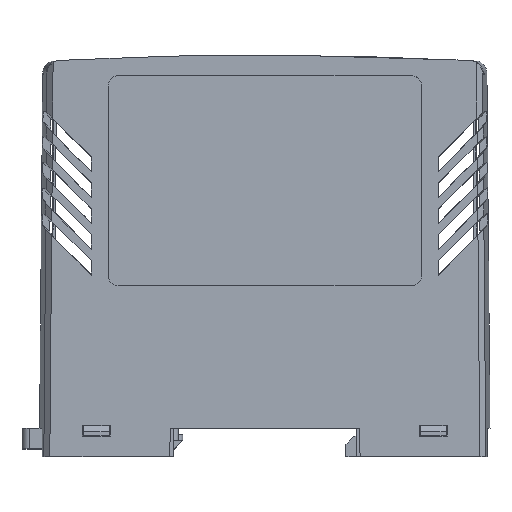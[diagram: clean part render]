
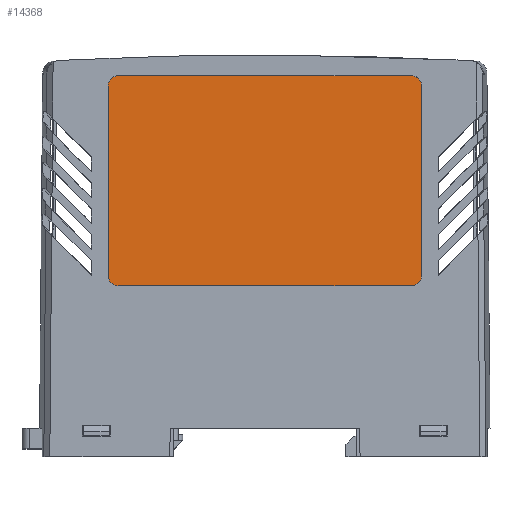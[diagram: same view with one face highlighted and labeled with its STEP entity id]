
A CAD part, top view. The second image highlights one B-rep face of the part: STEP entity #14368.
In plain terms, the highlighted planar face has unit normal (0, 0.009, 1).
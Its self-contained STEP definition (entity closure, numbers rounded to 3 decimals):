
#73 = VECTOR ( 'NONE', #10218, 1000. ) ;
#108 = VECTOR ( 'NONE', #19957, 1000. ) ;
#308 = VECTOR ( 'NONE', #16196, 1000. ) ;
#822 = CARTESIAN_POINT ( 'NONE',  ( 30.25, 72.672, 16.366 ) ) ;
#995 = EDGE_LOOP ( 'NONE', ( #2947, #9107, #2075, #9069, #15527, #13539, #15477, #6209 ) ) ;
#1890 = VERTEX_POINT ( 'NONE', #18297 ) ;
#2075 = ORIENTED_EDGE ( 'NONE', *, *, #9198, .F. ) ;
#2466 = VECTOR ( 'NONE', #21697, 1000. ) ;
#2697 =( BOUNDED_CURVE ( )  B_SPLINE_CURVE ( 3, ( #23502, #15759, #13910, #12091 ),
 .UNSPECIFIED., .F., .F. ) 
 B_SPLINE_CURVE_WITH_KNOTS ( ( 4, 4 ),
 ( 4.712, 6.283 ),
 .UNSPECIFIED. ) 
 CURVE ( )  GEOMETRIC_REPRESENTATION_ITEM ( )  RATIONAL_B_SPLINE_CURVE ( ( 1., 0.805, 0.805, 1. ) ) 
 REPRESENTATION_ITEM ( '' )  );
#2947 = ORIENTED_EDGE ( 'NONE', *, *, #13870, .T. ) ;
#3215 = EDGE_CURVE ( 'NONE', #20598, #23991, #2697, .T. ) ;
#3667 = CARTESIAN_POINT ( 'NONE',  ( 28.25, 73.5, 16.359 ) ) ;
#4546 = CARTESIAN_POINT ( 'NONE',  ( -28.25, 33., 16.712 ) ) ;
#4681 = CARTESIAN_POINT ( 'NONE',  ( -30.25, 33.828, 16.705 ) ) ;
#4962 = CARTESIAN_POINT ( 'NONE',  ( -30.25, 72.672, 16.366 ) ) ;
#5158 = LINE ( 'NONE', #8542, #108 ) ;
#6037 = VERTEX_POINT ( 'NONE', #20530 ) ;
#6156 = AXIS2_PLACEMENT_3D ( 'NONE', #6261, #10088, #23408 ) ;
#6209 = ORIENTED_EDGE ( 'NONE', *, *, #21453, .F. ) ;
#6255 = VERTEX_POINT ( 'NONE', #21267 ) ;
#6261 = CARTESIAN_POINT ( 'NONE',  ( -31.46, 74.31, 16.351 ) ) ;
#6390 =( BOUNDED_CURVE ( )  B_SPLINE_CURVE ( 3, ( #18265, #4962, #8787, #22124 ),
 .UNSPECIFIED., .F., .F. ) 
 B_SPLINE_CURVE_WITH_KNOTS ( ( 4, 4 ),
 ( 1.571, 3.142 ),
 .UNSPECIFIED. ) 
 CURVE ( )  GEOMETRIC_REPRESENTATION_ITEM ( )  RATIONAL_B_SPLINE_CURVE ( ( 1., 0.805, 0.805, 1. ) ) 
 REPRESENTATION_ITEM ( '' )  );
#6437 = CARTESIAN_POINT ( 'NONE',  ( -30.25, 35., 16.695 ) ) ;
#6615 = CARTESIAN_POINT ( 'NONE',  ( 0., 73.5, 16.359 ) ) ;
#7512 = CARTESIAN_POINT ( 'NONE',  ( 28.25, 33., 16.712 ) ) ;
#7531 = LINE ( 'NONE', #6437, #2466 ) ;
#7800 = EDGE_CURVE ( 'NONE', #23991, #23889, #5158, .T. ) ;
#8206 =( BOUNDED_CURVE ( )  B_SPLINE_CURVE ( 3, ( #23574, #14156, #4681, #17974 ),
 .UNSPECIFIED., .F., .F. ) 
 B_SPLINE_CURVE_WITH_KNOTS ( ( 4, 4 ),
 ( 0., 1.571 ),
 .UNSPECIFIED. ) 
 CURVE ( )  GEOMETRIC_REPRESENTATION_ITEM ( )  RATIONAL_B_SPLINE_CURVE ( ( 1., 0.805, 0.805, 1. ) ) 
 REPRESENTATION_ITEM ( '' )  );
#8354 = CARTESIAN_POINT ( 'NONE',  ( 29.422, 73.5, 16.359 ) ) ;
#8542 = CARTESIAN_POINT ( 'NONE',  ( 0., 33., 16.712 ) ) ;
#8787 = CARTESIAN_POINT ( 'NONE',  ( -29.422, 73.5, 16.359 ) ) ;
#9069 = ORIENTED_EDGE ( 'NONE', *, *, #22145, .F. ) ;
#9107 = ORIENTED_EDGE ( 'NONE', *, *, #23514, .F. ) ;
#9198 = EDGE_CURVE ( 'NONE', #1890, #13095, #7531, .T. ) ;
#9780 = EDGE_CURVE ( 'NONE', #20598, #6255, #10184, .T. ) ;
#10088 = DIRECTION ( 'NONE',  ( 0., 0.009, 1. ) ) ;
#10184 = LINE ( 'NONE', #13924, #73 ) ;
#10218 = DIRECTION ( 'NONE',  ( 0., 1., -0.009 ) ) ;
#10300 = CARTESIAN_POINT ( 'NONE',  ( 28.25, 73.5, 16.359 ) ) ;
#12091 = CARTESIAN_POINT ( 'NONE',  ( 28.25, 33., 16.712 ) ) ;
#13095 = VERTEX_POINT ( 'NONE', #19114 ) ;
#13539 = ORIENTED_EDGE ( 'NONE', *, *, #3215, .F. ) ;
#13870 = EDGE_CURVE ( 'NONE', #23174, #6037, #15478, .T. ) ;
#13910 = CARTESIAN_POINT ( 'NONE',  ( 29.422, 33., 16.712 ) ) ;
#13924 = CARTESIAN_POINT ( 'NONE',  ( 30.25, 74.31, 16.351 ) ) ;
#14103 = CARTESIAN_POINT ( 'NONE',  ( 30.25, 71.5, 16.376 ) ) ;
#14156 = CARTESIAN_POINT ( 'NONE',  ( -29.422, 33., 16.712 ) ) ;
#14368 = ADVANCED_FACE ( 'NONE', ( #16392 ), #21508, .T. ) ;
#15312 = CARTESIAN_POINT ( 'NONE',  ( 30.25, 35., 16.695 ) ) ;
#15477 = ORIENTED_EDGE ( 'NONE', *, *, #9780, .T. ) ;
#15478 = LINE ( 'NONE', #6615, #308 ) ;
#15527 = ORIENTED_EDGE ( 'NONE', *, *, #7800, .F. ) ;
#15759 = CARTESIAN_POINT ( 'NONE',  ( 30.25, 33.828, 16.705 ) ) ;
#16196 = DIRECTION ( 'NONE',  ( -1., 0., 0. ) ) ;
#16392 = FACE_OUTER_BOUND ( 'NONE', #995, .T. ) ;
#17974 = CARTESIAN_POINT ( 'NONE',  ( -30.25, 35., 16.695 ) ) ;
#18265 = CARTESIAN_POINT ( 'NONE',  ( -30.25, 71.5, 16.376 ) ) ;
#18297 = CARTESIAN_POINT ( 'NONE',  ( -30.25, 35., 16.695 ) ) ;
#19114 = CARTESIAN_POINT ( 'NONE',  ( -30.25, 71.5, 16.376 ) ) ;
#19957 = DIRECTION ( 'NONE',  ( -1., 0., 0. ) ) ;
#20530 = CARTESIAN_POINT ( 'NONE',  ( -28.25, 73.5, 16.359 ) ) ;
#20598 = VERTEX_POINT ( 'NONE', #15312 ) ;
#21267 = CARTESIAN_POINT ( 'NONE',  ( 30.25, 71.5, 16.376 ) ) ;
#21453 = EDGE_CURVE ( 'NONE', #23174, #6255, #21519, .T. ) ;
#21508 = PLANE ( 'NONE',  #6156 ) ;
#21519 =( BOUNDED_CURVE ( )  B_SPLINE_CURVE ( 3, ( #10300, #8354, #822, #14103 ),
 .UNSPECIFIED., .F., .F. ) 
 B_SPLINE_CURVE_WITH_KNOTS ( ( 4, 4 ),
 ( 3.142, 4.712 ),
 .UNSPECIFIED. ) 
 CURVE ( )  GEOMETRIC_REPRESENTATION_ITEM ( )  RATIONAL_B_SPLINE_CURVE ( ( 1., 0.805, 0.805, 1. ) ) 
 REPRESENTATION_ITEM ( '' )  );
#21697 = DIRECTION ( 'NONE',  ( 0., 1., -0.009 ) ) ;
#22124 = CARTESIAN_POINT ( 'NONE',  ( -28.25, 73.5, 16.359 ) ) ;
#22145 = EDGE_CURVE ( 'NONE', #23889, #1890, #8206, .T. ) ;
#23174 = VERTEX_POINT ( 'NONE', #3667 ) ;
#23408 = DIRECTION ( 'NONE',  ( 0., -1., 0.009 ) ) ;
#23502 = CARTESIAN_POINT ( 'NONE',  ( 30.25, 35., 16.695 ) ) ;
#23514 = EDGE_CURVE ( 'NONE', #13095, #6037, #6390, .T. ) ;
#23574 = CARTESIAN_POINT ( 'NONE',  ( -28.25, 33., 16.712 ) ) ;
#23889 = VERTEX_POINT ( 'NONE', #4546 ) ;
#23991 = VERTEX_POINT ( 'NONE', #7512 ) ;
